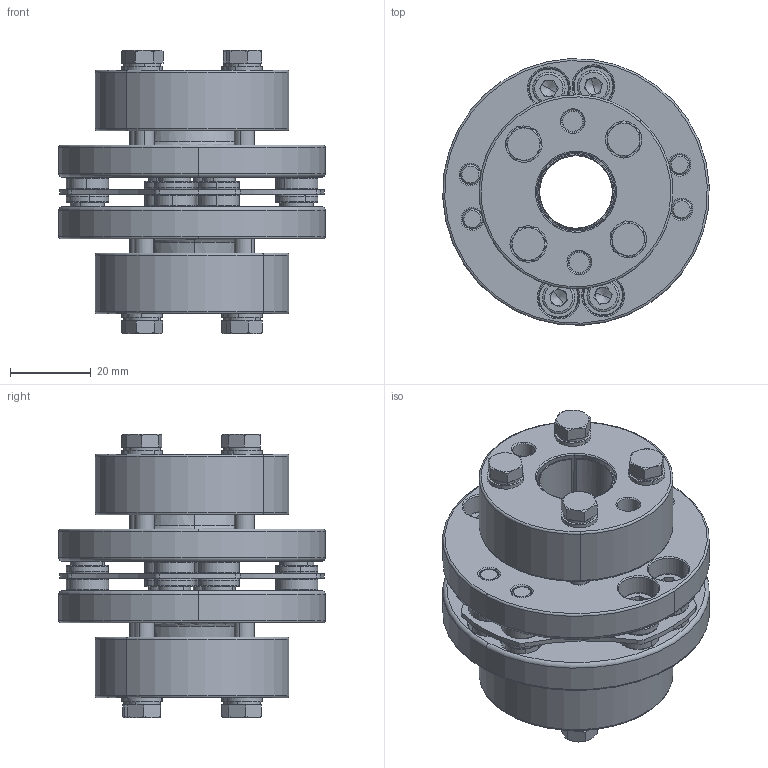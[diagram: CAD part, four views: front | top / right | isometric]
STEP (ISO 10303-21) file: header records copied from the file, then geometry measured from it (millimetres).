
FILE_DESCRIPTION (( 'STEP AP214' ), '1' );
FILE_NAME ('SHDS-66T.STEP', '2009-05-22T01:16:08', ( '歜煽繹' ), ( '' ), 'SwSTEP 2.0', 'SolidWorks 2007', '' );
FILE_SCHEMA (( 'AUTOMOTIVE_DESIGN' ));
Length unit declared in the file: millimetre
Products named in the file (9): M5x25_H_H_ル遽; sdw66-head_ル遽; Washer_ル遽; SHDS-66T; sdw66-body_ル遽; collar-1_ル遽; M5x14_ル遽; collar-2_ル遽; sus-plate_ル遽
Assembly tree (45 placements, depth 2):
  SHDS-66T
    collar-2_ル遽  x8
    M5x25_H_H_ル遽  x8
    M5x14_ル遽  x8
    collar-1_ル遽  x8
    sdw66-head_ル遽  x2
    Washer_ル遽  x8
    sdw66-body_ル遽  x2
    sus-plate_ル遽
Bounding box: 65.93 x 65.93 x 70.2 mm (x, y, z)
Volume: 99931.2 mm3; surface area: 55512.6 mm2
Topology: 45 solids, 45 shells, 1155 faces, 2601 edges, 1564 vertices
Faces by surface type: plane 350, cylinder 319, torus 260, cone 204, bspline 22
Entity records: 13439 total; most frequent: CARTESIAN_POINT 1877, DIRECTION 1861, ORIENTED_EDGE 1490, AXIS2_PLACEMENT_3D 812, EDGE_CURVE 745, CIRCLE 464, VERTEX_POINT 460, EDGE_LOOP 385
